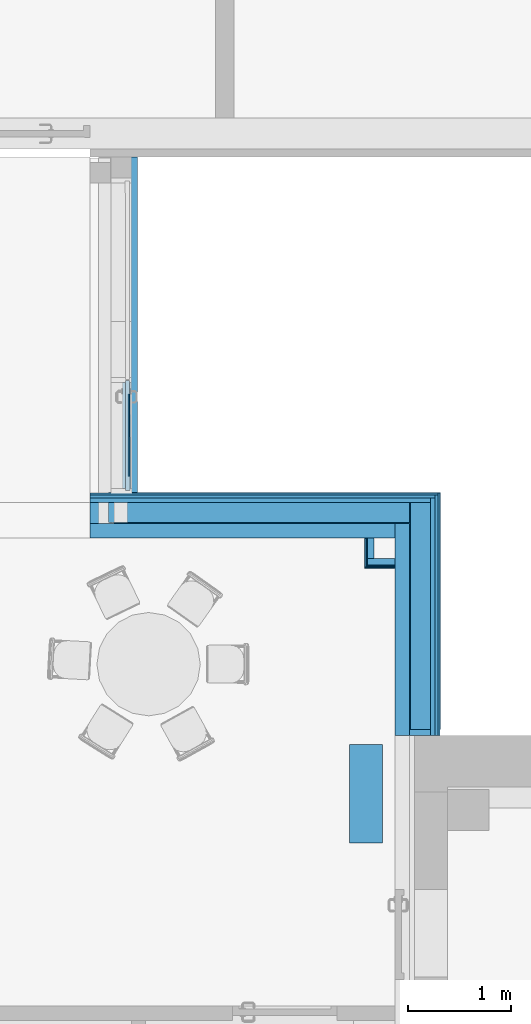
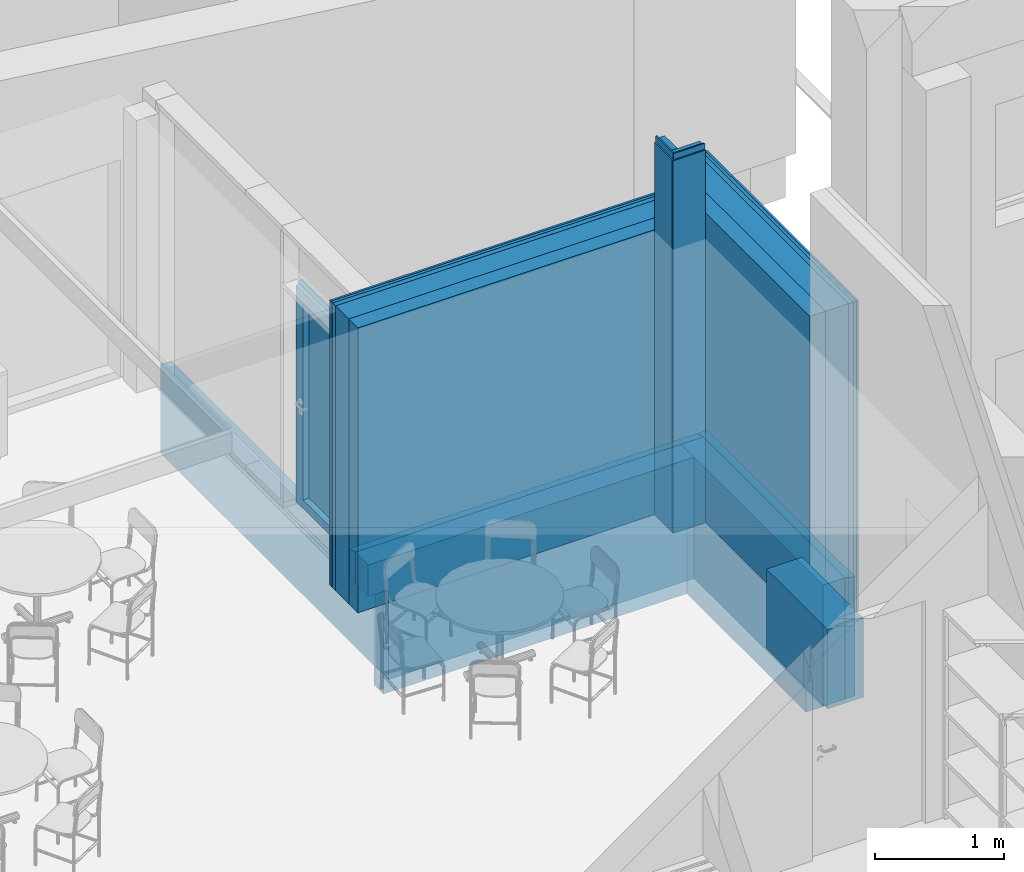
# One storey, part 211 of 301: 25 building element parts, 1 discrete accessory, 9 elements without a shape of their own.
"""IFC2X3 building model written with IfcOpenShell, lengths in millimetres."""

from ifc_helpers import new_model, entity, si_unit, converted_unit, derived_unit, money_unit, direction, frame, origin_with_axes, place, context, subcontext, project, spatial, open_shell, faceted_brep, surface_model, material, type_object, element, aggregate, save


model = new_model("IFC2X3")

# Units and contexts
model_context = context("Model", 3, precision=0.01, world=origin_with_axes(), true_north=direction((0.0, 1.0)))
body_context = subcontext(model_context, "Body", "Model", "MODEL_VIEW")
ifc_project = project(units=[si_unit("LENGTHUNIT", "METRE", prefix="MILLI"), si_unit("AREAUNIT", "SQUARE_METRE"), si_unit("VOLUMEUNIT", "CUBIC_METRE"), converted_unit("PLANEANGLEUNIT", "DEGREE", entity("IfcPlaneAngleMeasure", 0.0174532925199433), si_unit("PLANEANGLEUNIT", "RADIAN"), dimensions=[0, 0, 0, 0, 0, 0, 0]), money_unit("EUR"), converted_unit("TIMEUNIT", "Year", entity("IfcTimeMeasure", 31557600.0), si_unit("TIMEUNIT", "SECOND"), dimensions=[0, 0, 1, 0, 0, 0, 0]), si_unit("MASSUNIT", "GRAM", prefix="KILO"), si_unit("THERMODYNAMICTEMPERATUREUNIT", "DEGREE_CELSIUS"), si_unit("LUMINOUSINTENSITYUNIT", "LUMEN"), si_unit("ENERGYUNIT", "JOULE", prefix="MEGA"), derived_unit("THERMALCONDUCTANCEUNIT", [(si_unit("POWERUNIT", "WATT"), 1), (si_unit("LENGTHUNIT", "METRE"), -1), (si_unit("THERMODYNAMICTEMPERATUREUNIT", "KELVIN"), -1)]), derived_unit("SPECIFICHEATCAPACITYUNIT", [(si_unit("ENERGYUNIT", "JOULE"), 1), (si_unit("MASSUNIT", "GRAM", prefix="KILO"), -1), (si_unit("THERMODYNAMICTEMPERATUREUNIT", "KELVIN"), -1)]), derived_unit("MASSDENSITYUNIT", [(si_unit("MASSUNIT", "GRAM", prefix="KILO"), 1), (si_unit("VOLUMEUNIT", "CUBIC_METRE"), -1)])], contexts=[model_context])

# Site, building, storey
site_placement = place(None, frame((0.0, 0.0, 8650.0), z_axis=(0.0, 0.0, 1.0), x_axis=(1.0, 0.0, 0.0)))
site = spatial("IfcSite", under=ifc_project, at=site_placement, Name="43301:001:0844", CompositionType="ELEMENT")
building_placement = place(site_placement, origin_with_axes())
building = spatial("IfcBuilding", under=site, at=building_placement, Name="Kuressaare Ametikooli tuulikute mehaanikute õppekorpus", CompositionType="ELEMENT")
storey_placement = place(building_placement, origin_with_axes())
storey = spatial("IfcBuildingStorey", under=building, at=storey_placement, Name="1.korrus", CompositionType="ELEMENT", Elevation=0.0)

# Discrete accessory
ifc_material_1 = material(Name="GENEERILINE - KONSTRUKTRIOON")
discrete_accessory_type = type_object("IfcDiscreteAccessoryType", Name="GENEERILINE - KONSTRUKTRIOON 750")
discrete_accessory_placement = place(storey_placement, frame((132904.3535002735, 26244.74430798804, 0.0), z_axis=(0.0, 0.0, 1.0), x_axis=(1.0, 0.0, 0.0)))
element("IfcDiscreteAccessory", 1, at=discrete_accessory_placement, inside=storey, type_object=discrete_accessory_type, material=ifc_material_1, Name="PR2", context=body_context, shape_type="Brep", body=[
    faceted_brep([(0.0, 0.0, 750.0), (0.0, 0.0, 0.0), (-319.9999999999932, 0.0, 0.0), (-319.9999999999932, 0.0, 750.0), (0.0, -949.9999999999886, 750.0), (0.0, -949.9999999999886, 0.0), (-319.9999999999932, -949.9999999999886, 0.0), (-319.9999999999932, -949.9999999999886, 750.0)], [[[0, 1, 2, 3]], [[4, 5, 1, 0]], [[2, 1, 5, 6]], [[3, 2, 6, 7]], [[4, 0, 3, 7]], [[7, 6, 5, 4]]]),
])

# Wall, building element parts
wall_type_1 = type_object("IfcWallType", Name="TUUL_vundament 440 x 1150", PredefinedType="NOTDEFINED")
wall_1_placement = place(storey_placement, frame((133274.957505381, 28494.09898072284, 0.0), z_axis=(0.0, 0.0, 1.0), x_axis=(-0.9999999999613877, -8.787762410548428e-06, 0.0)))
wall_1 = element("IfcWall", 2, at=wall_1_placement, inside=storey, type_object=wall_type_1, Name="Sokkel")
ifc_material_2 = material(Name="Soojustus - Vahtpolüstüreen")
building_element_part_1_placement = place(wall_1_placement, origin_with_axes())
building_element_part_1 = element("IfcBuildingElementPart", 3, at=building_element_part_1_placement, material=ifc_material_2, Name="Soojustus - Vahtpolüstüreen", context=body_context, shape_type="Brep", body=[
    faceted_brep([(3018.532935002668, 99.99998805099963, 300.0000020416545), (100.0016595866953, 99.99999464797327, 300.0000000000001), (99.99832851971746, -100.0000110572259, 300.0000000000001), (3018.532935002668, -100.0000157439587, 300.0000020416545), (2838.534695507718, 100.0000091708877, 7.862006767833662e-06), (100.0016595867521, 99.99999723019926, 8.940705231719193e-06), (3018.532935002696, 100.0000099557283, 8.195646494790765e-06), (99.99833000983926, -100.0000104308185, -850.0000000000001), (100.0016610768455, 99.99999552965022, -850.0000000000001), (2838.531180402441, -100.0000104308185, -850.0000000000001), (2838.531180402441, -100.0000104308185, 7.417153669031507e-06), (3018.532935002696, -100.0000104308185, 8.195646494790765e-06), (2838.534695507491, 99.99999552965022, -850.0000000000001)], [[[0, 1, 2, 3]], [[4, 5, 1, 0, 6]], [[7, 2, 1, 5, 8]], [[3, 2, 7, 9, 10, 11]], [[3, 11, 6, 0]], [[12, 8, 5, 4]], [[11, 10, 4, 6]], [[9, 7, 8, 12]], [[4, 10, 9, 12]]]),
])
ifc_material_3 = material(Name="Betoon - C30/37")
building_element_part_2_placement = place(wall_1_placement, origin_with_axes())
building_element_part_2 = element("IfcBuildingElementPart", 4, at=building_element_part_2_placement, material=ifc_material_3, Name="Betoon - C30/37", context=body_context, shape_type="Brep", body=[
    faceted_brep([(2968.534692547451, 100.0000000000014, 7.862006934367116e-06), (2968.537328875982, 249.9999908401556, 8.195646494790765e-06), (250.0041638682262, 249.9999987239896, 0.0), (250.0016655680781, 100.000000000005, 0.0), (2968.534692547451, 100.0000000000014, -850.0000000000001), (2968.537328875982, 249.9999908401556, -850.0000000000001), (250.0041638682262, 249.9999987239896, -850.0000000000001), (250.0016655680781, 100.000000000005, -850.0000000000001)], [[[0, 1, 2, 3]], [[4, 5, 1, 0]], [[1, 5, 6, 2]], [[2, 6, 7, 3]], [[4, 0, 3, 7]], [[5, 4, 7, 6]]]),
])
building_element_part_3_placement = place(wall_1_placement, origin_with_axes())
building_element_part_3 = element("IfcBuildingElementPart", 5, at=building_element_part_3_placement, material=ifc_material_3, Name="Betoon - C30/37", context=body_context, shape_type="Brep", body=[
    faceted_brep([(3018.532935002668, -100.0000157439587, 300.0000020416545), (-100.0016655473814, -100.0000009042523, 300.0000000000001), (-100.003164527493, -190.0000001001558, 279.9999925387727), (3018.532935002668, -190.0000017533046, 279.9999921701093), (-100.001665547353, -99.99999999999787, -850.0000000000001), (3018.532935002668, -99.99999999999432, 8.195646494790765e-06), (2838.531177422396, -99.99999999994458, 7.417153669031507e-06), (2738.531177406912, -99.99999999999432, -10.00000000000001), (2738.531177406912, -99.99999999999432, -850.0000000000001), (-100.003164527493, -189.9999999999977, -850.0000000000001), (2738.529595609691, -190.0000000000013, -850.0000000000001), (2738.529595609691, -190.0000000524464, -10.00000000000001), (2838.529595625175, -190.0000000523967, 7.216969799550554e-06), (3018.532935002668, -190.0000017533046, 8.195646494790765e-06)], [[[0, 1, 2, 3]], [[4, 1, 0, 5, 6, 7, 8]], [[9, 2, 1, 4]], [[3, 2, 9, 10, 11, 12, 13]], [[3, 13, 5, 0]], [[13, 12, 6, 5]], [[6, 12, 11, 7]], [[7, 11, 10, 8]], [[10, 9, 4, 8]]]),
])
aggregate(wall_1, [building_element_part_1, building_element_part_2, building_element_part_3])

wall_2_placement = place(storey_placement, frame((133274.9575053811, 28494.09898072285, 0.0), z_axis=(0.0, 0.0, 1.0), x_axis=(-7.86757211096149e-06, -0.9999999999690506, 0.0)))
wall_2 = element("IfcWall", 6, at=wall_2_placement, inside=storey, type_object=wall_type_1, Name="Sokkel")
building_element_part_4_placement = place(wall_2_placement, origin_with_axes())
building_element_part_4 = element("IfcBuildingElementPart", 7, at=building_element_part_4_placement, material=ifc_material_3, Name="Betoon - C30/37", context=body_context, shape_type="Brep", body=[
    faceted_brep([(-190.0031675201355, 190.0000000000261, -850.0000000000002), (-190.0031675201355, 189.9999999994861, 279.9999925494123), (2100.952357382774, 190.0000000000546, 280.0), (2100.952357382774, 190.0000000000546, -850.0000000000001), (-190.0016685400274, 100.0000000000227, -850.0000000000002), (-190.0016685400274, 100.0000000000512, 279.9999925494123), (-100.0016864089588, 100.0000000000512, 300.0000000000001), (2100.95235738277, 100.0000000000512, 300.0000000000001), (2100.95235738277, 100.0000000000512, -850.0000000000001)], [[[0, 1, 2, 3]], [[1, 0, 4, 5]], [[1, 6, 7, 2]], [[2, 7, 8, 3]], [[4, 0, 3, 8]], [[5, 4, 8, 7, 6]], [[6, 1, 5]]]),
])
building_element_part_5_placement = place(wall_2_placement, origin_with_axes())
building_element_part_5 = element("IfcBuildingElementPart", 8, at=building_element_part_5_placement, material=ifc_material_2, Name="Soojustus - Vahtpolüstüreen", context=body_context, shape_type="Brep", body=[
    faceted_brep([(-100.001665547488, 100.0000104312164, 300.0000000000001), (2100.952357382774, 100.0000104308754, 300.0000000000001), (2100.952357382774, 100.0000104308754, -850.0000000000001), (-100.001665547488, 100.0000104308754, -850.0000000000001), (-99.99833448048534, -99.99999552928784, 300.0000000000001), (2100.95235738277, -99.99999552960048, 300.0000000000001), (2100.95235738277, -99.99999552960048, 8.195646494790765e-06), (2100.95235738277, -99.99999552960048, -850.0000000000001), (-99.99833448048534, -99.9999955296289, -850.0000000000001), (-99.99833448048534, -99.9999955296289, 0.0)], [[[0, 1, 2, 3]], [[0, 4, 5, 1]], [[5, 6, 7, 2, 1]], [[8, 3, 2, 7]], [[9, 4, 0, 3, 8]], [[4, 9, 6, 5]], [[9, 8, 7, 6]]]),
])
building_element_part_6_placement = place(wall_2_placement, origin_with_axes())
building_element_part_6 = element("IfcBuildingElementPart", 9, at=building_element_part_6_placement, material=ifc_material_3, Name="Betoon - C30/37", context=body_context, shape_type="Brep", body=[
    faceted_brep([(2100.95235738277, -99.9999999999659, -850.0000000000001), (100.0016610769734, -99.9999999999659, -850.0000000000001), (100.0016610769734, -99.9999999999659, 8.195646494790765e-06), (2100.95235738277, -99.9999999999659, 0.0), (2100.952357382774, -249.9999999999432, -850.0000000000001), (100.0041593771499, -249.9999999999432, -850.0000000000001), (100.0041593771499, -249.9999999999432, 8.195646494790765e-06), (2100.952357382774, -249.9999999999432, 0.0)], [[[0, 1, 2, 3]], [[4, 5, 1, 0]], [[5, 6, 2, 1]], [[3, 2, 6, 7]], [[4, 0, 3, 7]], [[7, 6, 5, 4]]]),
])
aggregate(wall_2, [building_element_part_4, building_element_part_5, building_element_part_6])

wall_type_2 = type_object("IfcWallType", Name="VS1 437", PredefinedType="NOTDEFINED")
wall_3_placement = place(storey_placement, frame((133024.9464416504, 26335.32878583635, 0.0), z_axis=(0.0, 0.0, 1.0), x_axis=(0.0, 1.0, 0.0)))
wall_3 = element("IfcWall", 10, at=wall_3_placement, inside=storey, type_object=wall_type_2, Name="Välissein")
ifc_material_4 = material(Name="Puit - CLT")
building_element_part_7_placement = place(wall_3_placement, origin_with_axes())
building_element_part_7 = element("IfcBuildingElementPart", 11, at=building_element_part_7_placement, material=ifc_material_4, Name="Puit - CLT", context=body_context, shape_type="Brep", body=[
    faceted_brep([(2048.7401381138, -139.9999999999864, 2699.999999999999), (2048.7401381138, -139.9999999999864, 2933.639237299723), (0.0, -139.9999999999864, 2933.639236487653), (0.0, -139.9999999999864, 0.0), (2048.7401381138, -139.9999999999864, 0.0), (2048.7401381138, 0.0, 2933.639237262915), (2048.7401381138, 0.0, 0.0), (0.0, 0.0, 2933.639236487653), (0.0, 0.0, 0.0)], [[[0, 1, 2, 3, 4]], [[5, 1, 0, 4, 6]], [[1, 5, 7, 2]], [[2, 7, 8, 3]], [[6, 4, 3, 8]], [[5, 6, 8, 7]]]),
])
ifc_material_5 = material(Name="Soojustus - Mineraalvill jäik")
building_element_part_8_placement = place(wall_3_placement, origin_with_axes())
building_element_part_8 = element("IfcBuildingElementPart", 12, at=building_element_part_8_placement, material=ifc_material_5, Name="Soojustus - Mineraalvill jäik", context=body_context, shape_type="Brep", body=[
    faceted_brep([(2253.740138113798, -344.9999999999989, 2699.999999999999), (2253.740138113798, -344.9999999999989, 2933.63923738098), (0.0, -344.9999999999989, 2933.639236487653), (0.0, -344.9999999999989, 0.0), (2253.740138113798, -344.9999999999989, 0.0), (2253.740138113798, -139.9999999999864, 2933.63923732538), (2253.740138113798, -139.9999999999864, 0.0), (0.0, -139.9999999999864, 2933.639236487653), (0.0, -139.9999999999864, 0.0)], [[[0, 1, 2, 3, 4]], [[5, 1, 0, 4, 6]], [[1, 5, 7, 2]], [[2, 7, 8, 3]], [[6, 4, 3, 8]], [[5, 6, 8, 7]]]),
])
ifc_material_6 = material(Name="Air Space - Frame")
building_element_part_9_placement = place(wall_3_placement, origin_with_axes())
building_element_part_9 = element("IfcBuildingElementPart", 13, at=building_element_part_9_placement, material=ifc_material_6, Name="Air Space - Frame", context=body_context, shape_type="Brep", body=[
    faceted_brep([(2297.740138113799, -389.00000000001, 2699.999999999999), (2297.740138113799, -389.00000000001, 2933.639237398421), (0.0, -389.00000000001, 2933.639236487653), (0.0, -389.00000000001, 0.0), (2297.740138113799, -389.00000000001, 0.0), (2297.740138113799, -344.9999999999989, 2933.639237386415), (2297.740138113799, -344.9999999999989, 0.0), (0.0, -344.9999999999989, 2933.639236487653), (0.0, -344.9999999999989, 0.0)], [[[0, 1, 2, 3, 4]], [[5, 1, 0, 4, 6]], [[1, 5, 7, 2]], [[2, 7, 8, 3]], [[6, 4, 3, 8]], [[5, 6, 8, 7]]]),
])
building_element_part_10_placement = place(wall_3_placement, origin_with_axes())
building_element_part_10 = element("IfcBuildingElementPart", 14, at=building_element_part_10_placement, material=ifc_material_6, Name="Air Space - Frame", context=body_context, shape_type="Brep", body=[
    faceted_brep([(2325.740138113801, -417.0000000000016, 2699.999999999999), (2325.740138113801, -417.0000000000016, 2933.639237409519), (0.0, -417.0000000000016, 2933.639236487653), (0.0, -417.0000000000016, 0.0), (2325.740138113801, -417.0000000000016, 0.0), (2325.740138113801, -389.00000000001, 2933.639237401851), (2325.740138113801, -389.00000000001, 0.0), (0.0, -389.00000000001, 2933.639236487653), (0.0, -389.00000000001, 0.0)], [[[0, 1, 2, 3, 4]], [[5, 1, 0, 4, 6]], [[1, 5, 7, 2]], [[2, 7, 8, 3]], [[6, 4, 3, 8]], [[5, 6, 8, 7]]]),
])
ifc_material_7 = material(Name="Puit - voodrilaud")
building_element_part_11_placement = place(wall_3_placement, origin_with_axes())
building_element_part_11 = element("IfcBuildingElementPart", 15, at=building_element_part_11_placement, material=ifc_material_7, Name="Puit - voodrilaud", context=body_context, shape_type="Brep", body=[
    faceted_brep([(2345.740138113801, -437.0000000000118, 0.0), (2345.740138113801, -437.0000000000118, 2933.639237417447), (0.0, -437.0000000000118, 2933.639236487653), (0.0, -437.0000000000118, 0.0), (2345.740138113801, -417.0000000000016, 0.0), (2345.740138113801, -417.0000000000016, 2933.639237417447), (0.0, -417.0000000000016, 2933.639236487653), (0.0, -417.0000000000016, 0.0)], [[[0, 1, 2, 3]], [[4, 5, 1, 0]], [[2, 1, 5, 6]], [[2, 6, 7, 3]], [[7, 4, 0, 3]], [[6, 5, 4, 7]]]),
])
aggregate(wall_3, [building_element_part_7, building_element_part_8, building_element_part_9, building_element_part_10, building_element_part_11])

# Wall, building element part
wall_type_3 = type_object("IfcWallType", Name="TUUL_vundament_madal 380 x 850", PredefinedType="NOTDEFINED")
wall_4_placement = place(storey_placement, frame((130256.4547534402, 31928.72897390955, 0.0), z_axis=(0.0, 0.0, 1.0), x_axis=(-8.787762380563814e-06, -0.9999999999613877, 0.0)))
wall_4 = element("IfcWall", 16, at=wall_4_placement, inside=storey, type_object=wall_type_3, Name="Sokkel")
building_element_part_12_placement = place(wall_4_placement, origin_with_axes())
building_element_part_12 = element("IfcBuildingElementPart", 17, at=building_element_part_12_placement, material=ifc_material_3, Name="Betoon - C30/37", context=body_context, shape_type="Brep", body=[
    faceted_brep([(0.0, 180.0000000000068, 0.0), (3334.653345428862, 180.0000000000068, 0.0), (3334.651587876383, 280.0000000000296, -10.00000000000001), (0.0, 280.0000000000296, -10.00000000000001), (0.0, 180.0000000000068, -850.0000000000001), (3334.653345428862, 180.0000000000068, -850.0000000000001), (3334.651587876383, 280.0000000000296, -850.0000000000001), (0.0, 280.0000000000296, -850.0000000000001)], [[[0, 1, 2, 3]], [[4, 5, 1, 0]], [[5, 6, 2, 1]], [[3, 2, 6, 7]], [[0, 3, 7, 4]], [[7, 6, 5, 4]]]),
])
aggregate(wall_4, [building_element_part_12])

# Wall, building element parts
wall_5_placement = place(storey_placement, frame((133024.9464416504, 28244.06892395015, 0.0), z_axis=(0.0, 0.0, 1.0), x_axis=(-1.0, 0.0, 0.0)))
wall_5 = element("IfcWall", 18, at=wall_5_placement, inside=storey, type_object=wall_type_2, Name="Välissein")
building_element_part_13_placement = place(wall_5_placement, origin_with_axes())
building_element_part_13 = element("IfcBuildingElementPart", 19, at=building_element_part_13_placement, material=ifc_material_4, Name="Puit - CLT", context=body_context, shape_type="Brep", body=[
    faceted_brep([(2948.760566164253, -140.0000000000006, 2699.999999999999), (0.0, -140.0000000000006, 2699.999999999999), (0.0, -140.0000000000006, 0.0), (2948.760566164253, -140.0000000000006, 0.0), (0.0, 0.0, 2699.999999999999), (2948.760566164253, 0.0, 2699.999999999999), (0.0, 0.0, 0.0), (2948.760566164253, 0.0, 0.0)], [[[0, 1, 2, 3]], [[4, 1, 0, 5]], [[1, 4, 6, 2]], [[2, 6, 7, 3]], [[5, 0, 3, 7]], [[4, 5, 7, 6]]]),
])
building_element_part_14_placement = place(wall_5_placement, origin_with_axes())
building_element_part_14 = element("IfcBuildingElementPart", 20, at=building_element_part_14_placement, material=ifc_material_5, Name="Soojustus - Mineraalvill jäik", context=body_context, shape_type="Brep", body=[
    faceted_brep([(2948.760566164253, -344.9999999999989, 2699.999999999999), (-139.9999999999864, -344.9999999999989, 2699.999999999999), (-139.9999999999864, -344.9999999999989, 0.0), (2948.760566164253, -344.9999999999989, 0.0), (-139.9999999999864, -140.0000000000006, 2699.999999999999), (2948.760566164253, -140.0000000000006, 2699.999999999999), (-139.9999999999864, -140.0000000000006, 0.0), (2948.760566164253, -140.0000000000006, 0.0)], [[[0, 1, 2, 3]], [[4, 1, 0, 5]], [[1, 4, 6, 2]], [[2, 6, 7, 3]], [[5, 0, 3, 7]], [[4, 5, 7, 6]]]),
])
building_element_part_15_placement = place(wall_5_placement, origin_with_axes())
building_element_part_15 = element("IfcBuildingElementPart", 21, at=building_element_part_15_placement, material=ifc_material_6, Name="Air Space - Frame", context=body_context, shape_type="Brep", body=[
    faceted_brep([(2948.760566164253, -417.0000000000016, 2699.999999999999), (-389.00000000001, -417.0000000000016, 2699.999999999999), (-389.00000000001, -417.0000000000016, 0.0), (2948.760566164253, -417.0000000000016, 0.0), (-389.00000000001, -388.9999999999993, 2699.999999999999), (2948.760566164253, -388.9999999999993, 2699.999999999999), (-389.00000000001, -388.9999999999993, 0.0), (2948.760566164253, -388.9999999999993, 0.0)], [[[0, 1, 2, 3]], [[4, 1, 0, 5]], [[1, 4, 6, 2]], [[2, 6, 7, 3]], [[5, 0, 3, 7]], [[4, 5, 7, 6]]]),
])
building_element_part_16_placement = place(wall_5_placement, origin_with_axes())
building_element_part_16 = element("IfcBuildingElementPart", 22, at=building_element_part_16_placement, material=ifc_material_6, Name="Air Space - Frame", context=body_context, shape_type="Brep", body=[
    faceted_brep([(2948.760566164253, -388.9999999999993, 2699.999999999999), (-344.9999999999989, -388.9999999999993, 2699.999999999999), (-344.9999999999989, -388.9999999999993, 0.0), (2948.760566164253, -388.9999999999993, 0.0), (-344.9999999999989, -344.9999999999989, 2699.999999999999), (2948.760566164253, -344.9999999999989, 2699.999999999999), (-344.9999999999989, -344.9999999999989, 0.0), (2948.760566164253, -344.9999999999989, 0.0)], [[[0, 1, 2, 3]], [[4, 1, 0, 5]], [[1, 4, 6, 2]], [[2, 6, 7, 3]], [[5, 0, 3, 7]], [[4, 5, 7, 6]]]),
])
building_element_part_17_placement = place(wall_5_placement, origin_with_axes())
building_element_part_17 = element("IfcBuildingElementPart", 23, at=building_element_part_17_placement, material=ifc_material_7, Name="Puit - voodrilaud", context=body_context, shape_type="Brep", body=[
    faceted_brep([(2948.760566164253, -437.0000019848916, 2699.999999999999), (-417.0000000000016, -437.0000000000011, 2699.999999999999), (-417.0000000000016, -437.0000000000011, 0.0), (2948.760566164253, -437.0000000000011, 0.0), (-417.0000000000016, -417.0000000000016, 2699.999999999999), (2948.760566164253, -417.0000000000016, 2699.999999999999), (-417.0000000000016, -417.0000000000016, 0.0), (2948.760566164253, -417.0000000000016, 0.0)], [[[0, 1, 2, 3]], [[4, 1, 0, 5]], [[1, 4, 6, 2]], [[2, 6, 7, 3]], [[5, 0, 3, 7]], [[4, 5, 7, 6]]]),
])
aggregate(wall_5, [building_element_part_13, building_element_part_14, building_element_part_15, building_element_part_16, building_element_part_17])

wall_type_4 = type_object("IfcWallType", Name="SS-2.4 92", PredefinedType="NOTDEFINED")
wall_6_placement = place(storey_placement, frame((132824.9464416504, 28044.06892395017, 0.0), z_axis=(0.0, 0.0, 1.0), x_axis=(0.0, 1.0, 0.0)))
wall_6 = element("IfcWall", 24, at=wall_6_placement, inside=storey, type_object=wall_type_4, Name="Sisesein")
ifc_material_8 = material(Name="Plaster - Gypsum")
building_element_part_18_placement = place(wall_6_placement, origin_with_axes())
building_element_part_18 = element("IfcBuildingElementPart", 25, at=building_element_part_18_placement, material=ifc_material_8, Name="Plaster - Gypsum", context=body_context, shape_type="Brep", body=[
    faceted_brep([(199.9999999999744, 92.00000000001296, 3530.0), (199.9999999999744, 79.00000000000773, 3530.0), (199.9999999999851, 79.00000000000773, 0.0), (199.9999999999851, 92.00000000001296, 0.0), (-79.00000000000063, 79.00000000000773, 3530.0), (-79.00000000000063, 92.00000000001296, 3530.0), (-79.00000000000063, 79.00000000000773, 0.0), (-79.00000000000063, 92.00000000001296, 0.0)], [[[0, 1, 2, 3]], [[4, 1, 0, 5]], [[1, 4, 6, 2]], [[7, 3, 2, 6]], [[5, 0, 3, 7]], [[4, 5, 7, 6]]]),
])
ifc_material_9 = material(Name="Plywood")
building_element_part_19_placement = place(wall_6_placement, origin_with_axes())
building_element_part_19 = element("IfcBuildingElementPart", 26, at=building_element_part_19_placement, material=ifc_material_9, Name="Plywood", context=body_context, shape_type="Brep", body=[
    faceted_brep([(199.999999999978, 66.0000000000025, 3585.0), (-65.99999999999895, 66.0000000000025, 3585.0), (-65.99999999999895, 66.0000000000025, 0.0), (199.9999999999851, 66.0000000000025, 0.0), (199.999999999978, 79.00000000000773, 3585.0), (-65.99999999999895, 79.00000000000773, 3585.0), (-65.99999999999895, 79.00000000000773, 0.0), (199.9999999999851, 79.00000000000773, 0.0)], [[[0, 1, 2, 3]], [[0, 4, 5, 1]], [[6, 2, 1, 5]], [[7, 3, 2, 6]], [[4, 0, 3, 7]], [[4, 7, 6, 5]]]),
])
building_element_part_20_placement = place(wall_6_placement, origin_with_axes())
building_element_part_20 = element("IfcBuildingElementPart", 27, at=building_element_part_20_placement, material=ifc_material_6, Name="Air Space - Frame", context=body_context, shape_type="Brep", body=[
    faceted_brep([(199.9999999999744, 66.0000000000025, 3560.0), (199.9999999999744, 0.0, 3560.0), (199.9999999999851, 0.0, 0.0), (199.9999999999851, 66.0000000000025, 0.0), (0.0, 0.0, 3560.0), (0.0, 66.0000000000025, 3560.0), (0.0, 0.0, 0.0), (0.0, 66.0000000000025, 0.0)], [[[0, 1, 2, 3]], [[4, 1, 0, 5]], [[1, 4, 6, 2]], [[7, 3, 2, 6]], [[5, 0, 3, 7]], [[4, 5, 7, 6]]]),
])
aggregate(wall_6, [building_element_part_18, building_element_part_19, building_element_part_20])

wall_7_placement = place(storey_placement, frame((133024.9464416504, 28044.06892395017, 0.0), z_axis=(0.0, 0.0, 1.0), x_axis=(-1.0, 0.0, 0.0)))
wall_7 = element("IfcWall", 28, at=wall_7_placement, inside=storey, type_object=wall_type_4, Name="Sisesein")
building_element_part_21_placement = place(wall_7_placement, origin_with_axes())
building_element_part_21 = element("IfcBuildingElementPart", 29, at=building_element_part_21_placement, material=ifc_material_8, Name="Plaster - Gypsum", context=body_context, shape_type="Brep", body=[
    faceted_brep([(292.00000000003, 79.00000000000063, 3530.0), (-1.538495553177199e-06, 79.00000000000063, 3530.0), (0.0, 79.00000000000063, 0.0), (292.00000000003, 79.00000000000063, 0.0), (-1.536648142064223e-06, 91.99999999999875, 3530.0), (292.00000000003, 91.99999999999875, 3530.0), (0.0, 91.99999999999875, 0.0), (292.00000000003, 91.99999999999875, 0.0)], [[[0, 1, 2, 3]], [[4, 1, 0, 5]], [[1, 4, 6, 2]], [[3, 2, 6, 7]], [[5, 0, 3, 7]], [[4, 5, 7, 6]]]),
])
building_element_part_22_placement = place(wall_7_placement, origin_with_axes())
building_element_part_22 = element("IfcBuildingElementPart", 30, at=building_element_part_22_placement, material=ifc_material_9, Name="Plywood", context=body_context, shape_type="Brep", body=[
    faceted_brep([(0.0, 79.00000000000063, 3584.999999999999), (0.0, 79.00000000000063, 0.0), (0.0, 65.99999999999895, 0.0), (0.0, 65.99999999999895, 3584.999999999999), (279.0000000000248, 79.00000000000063, 3585.0), (279.0000000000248, 79.00000000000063, 0.0), (279.0000000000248, 65.99999999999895, 0.0), (279.0000000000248, 65.99999999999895, 3585.0)], [[[0, 1, 2, 3]], [[1, 0, 4, 5]], [[2, 1, 5, 6]], [[2, 6, 7, 3]], [[0, 3, 7, 4]], [[5, 4, 7, 6]]]),
])
building_element_part_23_placement = place(wall_7_placement, origin_with_axes())
building_element_part_23 = element("IfcBuildingElementPart", 31, at=building_element_part_23_placement, material=ifc_material_6, Name="Air Space - Frame", context=body_context, shape_type="Brep", body=[
    faceted_brep([(266.0000000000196, 0.0, 3560.0), (-1.549722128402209e-06, 0.0, 3560.0), (0.0, 0.0, 0.0), (266.0000000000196, 0.0, 0.0), (-1.540342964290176e-06, 65.99999999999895, 3560.0), (266.0000000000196, 65.99999999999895, 3560.0), (0.0, 65.99999999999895, 0.0), (266.0000000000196, 65.99999999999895, 0.0)], [[[0, 1, 2, 3]], [[4, 1, 0, 5]], [[1, 4, 6, 2]], [[3, 2, 6, 7]], [[5, 0, 3, 7]], [[4, 5, 7, 6]]]),
])
aggregate(wall_7, [building_element_part_21, building_element_part_22, building_element_part_23])

# Curtain wall, door, building element parts
curtain_wall_type = type_object("IfcCurtainWallType", Name="Curtain Wall Type", PredefinedType="NOTDEFINED")
curtain_wall_placement = place(storey_placement, frame((130440.0312746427, 29344.34887802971, 34.99990943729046), z_axis=(0.0, 0.0, 1.0), x_axis=(1.0, 0.0, 0.0)))
curtain_wall = element("IfcCurtainWall", 32, at=curtain_wall_placement, inside=storey, type_object=curtain_wall_type, Name="KF-2")
door_style = type_object("IfcDoorStyle", Name="1064 x 2070 x 40", ConstructionType="NOTDEFINED", OperationType="SINGLE_SWING_RIGHT", ParameterTakesPrecedence=False, Sizeable=False)
door_placement = place(curtain_wall_placement, frame((0.1611179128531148, -107.4301606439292, 1037.500022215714), z_axis=(0.0, 0.0, 1.0), x_axis=(0.001499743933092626, -0.9999988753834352, 0.0)))
door = element("IfcDoor", 33, at=door_placement, type_object=door_style, Name="AVU10", OverallHeight=2050.0, OverallWidth=1024.3)
aggregate(curtain_wall, [door])
ifc_material_10 = material(Name="Aluminium")
building_element_part_24_placement = place(door_placement, origin_with_axes())
building_element_part_24 = element("IfcBuildingElementPart", 34, at=building_element_part_24_placement, material=ifc_material_10, Name="Aluminium", context=body_context, shape_type="SurfaceModel", body=[
    surface_model("IfcShellBasedSurfaceModel", [(512.1514045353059, -50.00000000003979, -1037.500022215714), (512.1514045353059, -50.00000000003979, 1012.500014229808), (467.1514045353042, -50.00000000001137, 967.5000142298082), (467.1514045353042, -50.00000000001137, -1037.500022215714)], [open_shell([[[0, 1, 2, 3]]])]),
    surface_model("IfcShellBasedSurfaceModel", [(-512.1513999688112, -50.00000000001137, 1012.500014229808), (-467.1513999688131, -50.00000000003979, 967.5000142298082), (467.1514045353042, -50.00000000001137, 967.5000142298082), (512.1514045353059, -50.00000000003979, 1012.500014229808)], [open_shell([[[0, 1, 2, 3]]])]),
    surface_model("IfcShellBasedSurfaceModel", [(-512.1513999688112, -50.00000000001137, -1037.500022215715), (-467.1513999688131, -50.00000000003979, -1037.500022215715), (-467.1513999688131, -50.00000000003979, 967.5000142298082), (-512.1513999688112, -50.00000000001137, 1012.500014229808)], [open_shell([[[0, 1, 2, 3]]])]),
    faceted_brep([(512.1514045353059, -50.00000000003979, -1037.500022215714), (512.1514045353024, 29.99999999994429, -1037.500022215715), (512.1514045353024, 29.99999999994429, 1012.500014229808), (512.1514045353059, -50.00000000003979, 1012.500014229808), (477.1514045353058, -50.00000000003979, -1037.500022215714), (477.1514045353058, 29.99999999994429, -1037.500022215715), (477.1514045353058, 29.99999999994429, 977.500014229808), (477.1514045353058, -50.00000000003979, 977.500014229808)], [[[0, 1, 2, 3]], [[4, 5, 1, 0]], [[1, 5, 6, 2]], [[3, 2, 6, 7]], [[0, 3, 7, 4]], [[7, 6, 5, 4]]]),
    faceted_brep([(-512.1513999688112, -50.00000000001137, 1012.500014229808), (-512.1513999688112, 29.99999999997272, 1012.500014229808), (-477.1513999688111, 30.00000000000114, 977.500014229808), (-477.1513999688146, -50.00000000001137, 977.500014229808), (512.1514045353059, -50.00000000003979, 1012.500014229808), (512.1514045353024, 29.99999999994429, 1012.500014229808), (477.1514045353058, 29.99999999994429, 977.500014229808), (477.1514045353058, -50.00000000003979, 977.500014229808)], [[[0, 1, 2, 3]], [[4, 5, 1, 0]], [[1, 5, 6, 2]], [[3, 2, 6, 7]], [[0, 3, 7, 4]], [[7, 6, 5, 4]]]),
    faceted_brep([(-512.1513999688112, -50.00000000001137, -1037.500022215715), (-512.1513999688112, 29.99999999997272, -1037.500022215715), (-477.1513999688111, 30.00000000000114, -1037.500022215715), (-477.1513999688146, -50.00000000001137, -1037.500022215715), (-512.1513999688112, -50.00000000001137, 1012.500014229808), (-512.1513999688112, 29.99999999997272, 1012.500014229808), (-477.1513999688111, 30.00000000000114, 977.500014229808), (-477.1513999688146, -50.00000000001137, 977.500014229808)], [[[0, 1, 2, 3]], [[4, 5, 1, 0]], [[1, 5, 6, 2]], [[3, 2, 6, 7]], [[0, 3, 7, 4]], [[7, 6, 5, 4]]]),
    faceted_brep([(532.1514109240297, -20.00000000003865, -1037.500022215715), (532.1514109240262, 19.99999999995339, -1037.500022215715), (532.1514109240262, 19.99999999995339, 1032.500020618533), (532.1514109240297, -20.00000000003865, 1032.500020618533), (512.1514045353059, -20.00000000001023, -1037.500022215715), (512.1514045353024, 19.99999999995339, -1037.500022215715), (512.1514045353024, 19.99999999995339, 1012.500014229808), (512.1514045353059, -20.00000000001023, 1012.500014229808)], [[[0, 1, 2, 3]], [[4, 5, 1, 0]], [[1, 5, 6, 2]], [[3, 2, 6, 7]], [[0, 3, 7, 4]], [[7, 6, 5, 4]]]),
    faceted_brep([(532.1514109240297, -20.00000000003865, 1032.500020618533), (532.1514109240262, 19.99999999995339, 1032.500020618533), (-532.1514063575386, 20.00000000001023, 1032.500020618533), (-532.1514063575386, -20.00000000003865, 1032.500020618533), (512.1514045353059, -20.00000000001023, 1012.500014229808), (512.1514045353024, 19.99999999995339, 1012.500014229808), (-512.1513999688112, 19.99999999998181, 1012.500014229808), (-512.1513999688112, -20.00000000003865, 1012.500014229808)], [[[0, 1, 2, 3]], [[4, 5, 1, 0]], [[1, 5, 6, 2]], [[3, 2, 6, 7]], [[0, 3, 7, 4]], [[7, 6, 5, 4]]]),
    faceted_brep([(-532.1514063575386, -20.00000000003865, 1032.500020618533), (-532.1514063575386, 20.00000000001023, 1032.500020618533), (-532.1514063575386, 20.00000000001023, -1037.500022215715), (-532.1514063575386, -20.00000000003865, -1037.500022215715), (-512.1513999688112, -20.00000000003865, 1012.500014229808), (-512.1513999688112, 19.99999999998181, 1012.500014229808), (-512.1513999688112, 19.99999999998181, -1037.500022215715), (-512.1513999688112, -20.00000000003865, -1037.500022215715)], [[[0, 1, 2, 3]], [[4, 5, 1, 0]], [[1, 5, 6, 2]], [[3, 2, 6, 7]], [[0, 3, 7, 4]], [[7, 6, 5, 4]]]),
    faceted_brep([(-397.1513999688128, -50.00000000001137, -957.5000222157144), (-397.1513999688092, 29.99999999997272, -957.5000222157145), (-397.1513999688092, 29.99999999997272, 897.500014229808), (-397.1513999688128, -50.00000000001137, 897.5000142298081), (-477.1513999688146, -50.00000000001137, -1037.500022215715), (-477.1513999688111, 30.00000000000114, -1037.500022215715), (-477.1513999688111, 30.00000000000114, 977.500014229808), (-477.1513999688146, -50.00000000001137, 977.500014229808)], [[[0, 1, 2, 3]], [[4, 5, 1, 0]], [[1, 5, 6, 2]], [[3, 2, 6, 7]], [[0, 3, 7, 4]], [[7, 6, 5, 4]]]),
    faceted_brep([(477.1514045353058, -50.00000000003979, -1037.500022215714), (477.1514045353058, 29.99999999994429, -1037.500022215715), (477.1514045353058, 29.99999999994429, 977.500014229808), (477.1514045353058, -50.00000000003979, 977.500014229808), (397.151404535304, -50.00000000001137, -957.5000222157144), (397.151404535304, 29.99999999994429, -957.5000222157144), (397.151404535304, 29.99999999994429, 897.500014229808), (397.151404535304, -50.00000000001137, 897.5000142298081)], [[[0, 1, 2, 3]], [[4, 5, 1, 0]], [[1, 5, 6, 2]], [[3, 2, 6, 7]], [[0, 3, 7, 4]], [[7, 6, 5, 4]]]),
    faceted_brep([(477.1514045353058, -50.00000000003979, -1037.500022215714), (477.1514045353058, 29.99999999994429, -1037.500022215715), (397.151404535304, 29.99999999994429, -957.5000222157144), (397.151404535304, -50.00000000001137, -957.5000222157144), (-477.1513999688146, -50.00000000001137, -1037.500022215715), (-477.1513999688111, 30.00000000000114, -1037.500022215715), (-397.1513999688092, 29.99999999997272, -957.5000222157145), (-397.1513999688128, -50.00000000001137, -957.5000222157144)], [[[0, 1, 2, 3]], [[4, 5, 1, 0]], [[1, 5, 6, 2]], [[3, 2, 6, 7]], [[0, 3, 7, 4]], [[7, 6, 5, 4]]]),
    faceted_brep([(-477.1513999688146, -50.00000000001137, 977.500014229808), (-477.1513999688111, 30.00000000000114, 977.500014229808), (-397.1513999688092, 29.99999999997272, 897.500014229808), (-397.1513999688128, -50.00000000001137, 897.5000142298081), (477.1514045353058, -50.00000000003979, 977.500014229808), (477.1514045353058, 29.99999999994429, 977.500014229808), (397.151404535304, 29.99999999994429, 897.500014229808), (397.151404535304, -50.00000000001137, 897.5000142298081)], [[[0, 1, 2, 3]], [[4, 5, 1, 0]], [[1, 5, 6, 2]], [[3, 2, 6, 7]], [[0, 3, 7, 4]], [[7, 6, 5, 4]]]),
])
ifc_material_11 = material(Name="Klaas")
building_element_part_25_placement = place(door_placement, origin_with_axes())
building_element_part_25 = element("IfcBuildingElementPart", 35, at=building_element_part_25_placement, material=ifc_material_11, Name="Klaas", context=body_context, shape_type="Brep", body=[
    faceted_brep([(-397.1513999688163, 3.999999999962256, -957.5000222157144), (-397.1513999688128, 19.99999999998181, -957.5000222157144), (397.1514045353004, 19.99999999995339, -957.5000222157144), (397.151404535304, 3.999999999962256, -957.5000222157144), (-397.1513999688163, 3.999999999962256, 897.500014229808), (-397.1513999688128, 19.99999999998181, 897.500014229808), (397.1514045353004, 19.99999999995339, 897.500014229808), (397.1514045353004, 3.999999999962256, 897.500014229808)], [[[0, 1, 2, 3]], [[4, 5, 1, 0]], [[1, 5, 6, 2]], [[3, 2, 6, 7]], [[0, 3, 7, 4]], [[7, 6, 5, 4]]]),
])
aggregate(door, [building_element_part_24, building_element_part_25])

save(model, "model.ifc")
